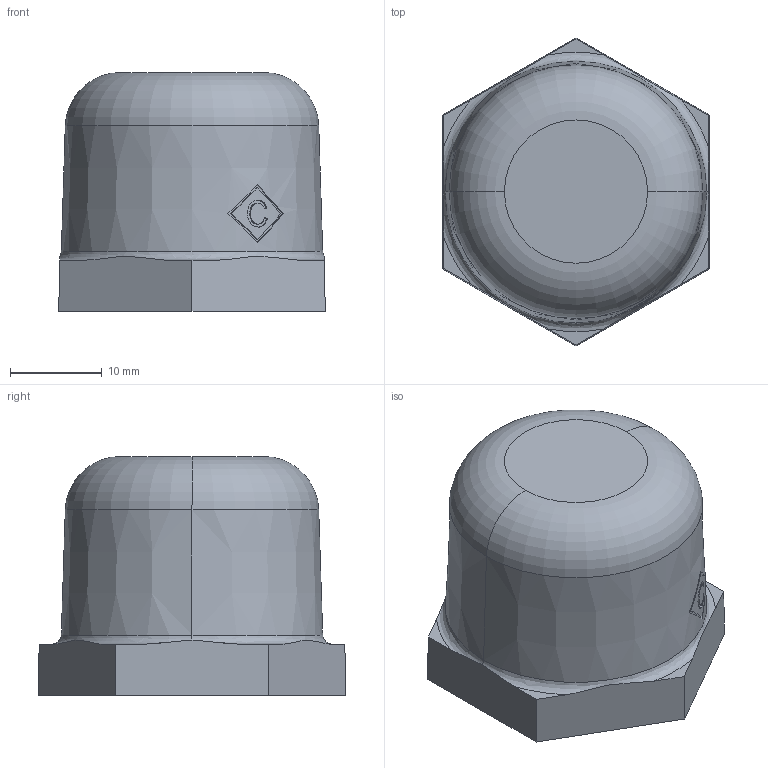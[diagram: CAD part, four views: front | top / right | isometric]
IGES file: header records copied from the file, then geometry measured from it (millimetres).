
Global section: file name: No Iges File Name specified; native system: AutoDesk Inventor R12.0; preprocessor: AutoDesk Inventor Iges Exporter R12.0; date: 20090917.085247; units: millimetre
Bounding box: 29 x 33.49 x 26 mm (x, y, z)
Volume: 11139.8 mm3; surface area: 4414.2 mm2
Topology: 1 solids, 1 shells, 48 faces, 118 edges, 76 vertices
Faces by surface type: plane 25, bspline 12, cone 5, revolution 4, torus 2
